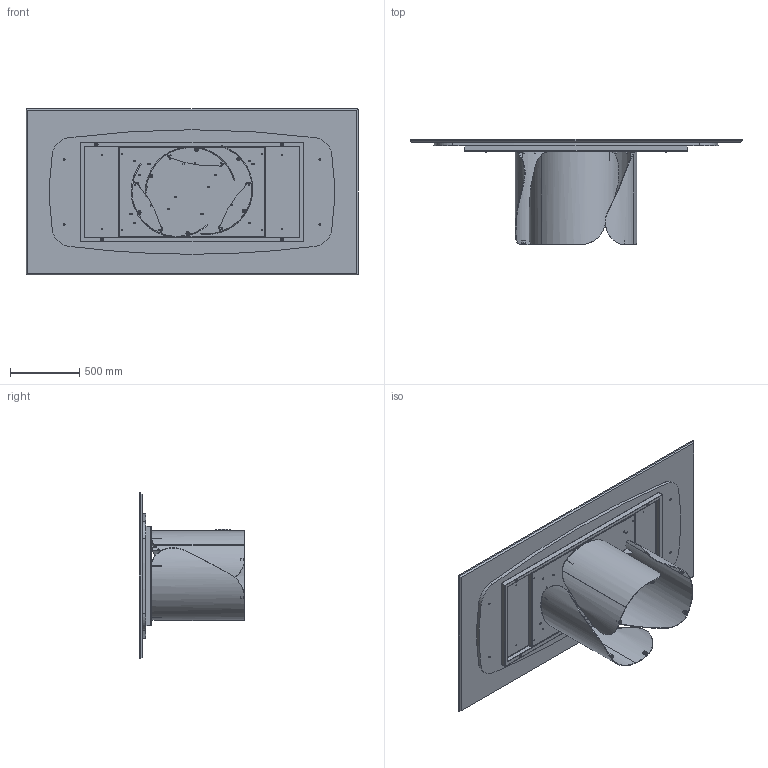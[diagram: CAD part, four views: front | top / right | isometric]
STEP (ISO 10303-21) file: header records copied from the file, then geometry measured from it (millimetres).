
FILE_DESCRIPTION (( 'STEP AP203' ), '1' );
FILE_NAME ('ON23M.STEP', '2024-08-06T13:52:09', ( '' ), ( '' ), 'SwSTEP 2.0', 'SolidWorks 2022', '' );
FILE_SCHEMA (( 'CONFIG_CONTROL_DESIGN' ));
Length unit declared in the file: millimetre
Products named in the file (17): COLLO BASE ONDA SINGOLA CON FERRAMENTA; TTAV0601_01-00-STRUTTURA X TAVOLI PLAI ONDA NOA 240; OND000000_03-00-LAMIERA CURVATA PRINCIPALE_OND00000X-00-ONDA BASE GREZZA PROTOTIPO; M2XMXX-00-Piani rettangolari in marmo_2400x1200; M8xXXmm_M8x55mm; TTAV0601-00-TELAIO X TAVOLI PLAI ONDA NOA 240cm_TTAV06; TTAV0601_02-00-VASSOIO TAVOLI PLAI ONDA NOA 240; OND000000_01-00-PIASTRA SUPERIORE BASE ONDA; PIEDINO PER ONDA; M8xXXmm_M8x20mm; OND000000-03-ONDA BASE GREZZA; M2X-00-Piani rettangolari marmo_2400*1200; rondella M8_8X24; TRUXXXXXX-00-NOBILITATO GR CON SUPP TRUCIOLARE SP. 25_TRU00007_2100x900; ON23M; OND000000_02-00-CILINDRO DI FISSAGGIO Ø25X17 M8; COLLO TELAIO UNIVERSALE TTAV0601 CON FERRAMENTA_FERRAMENTA MTG TOP LEGNO-MARMO-KING
Assembly tree (49 placements, depth 4):
  ON23M
    COLLO TELAIO UNIVERSALE TTAV0601 CON FERRAMENTA_FERRAMENTA MTG TOP LEGNO-MARMO-KING
      TTAV0601-00-TELAIO X TAVOLI PLAI ONDA NOA 240cm_TTAV06
        TTAV0601_02-00-VASSOIO TAVOLI PLAI ONDA NOA 240
        TTAV0601_01-00-STRUTTURA X TAVOLI PLAI ONDA NOA 240
      rondella M8_8X24  x4
      M8xXXmm_M8x55mm  x4
    COLLO BASE ONDA SINGOLA CON FERRAMENTA  x3
      OND000000-03-ONDA BASE GREZZA
        OND000000_03-00-LAMIERA CURVATA PRINCIPALE_OND00000X-00-ONDA BASE GREZZA PROTOTIPO
        OND000000_01-00-PIASTRA SUPERIORE BASE ONDA
        OND000000_02-00-CILINDRO DI FISSAGGIO Ø25X17 M8  x2
      PIEDINO PER ONDA
    rondella M8_8X24  x12
    M8xXXmm_M8x20mm  x12
    M2XMXX-00-Piani rettangolari in marmo_2400x1200
      M2X-00-Piani rettangolari marmo_2400*1200
      TRUXXXXXX-00-NOBILITATO GR CON SUPP TRUCIOLARE SP. 25_TRU00007_2100x900
Bounding box: 2400 x 761 x 1200 mm (x, y, z)
Volume: 113160826.7 mm3; surface area: 15734581.8 mm2
Topology: 60 solids, 60 shells, 1774 faces, 4058 edges, 2411 vertices
Faces by surface type: plane 628, cylinder 560, cone 302, torus 216, bspline 60, sphere 8
Entity records: 25171 total; most frequent: CARTESIAN_POINT 5502, DIRECTION 3716, ORIENTED_EDGE 3380, EDGE_CURVE 1690, AXIS2_PLACEMENT_3D 1409, VERTEX_POINT 1035, LINE 898, VECTOR 898
